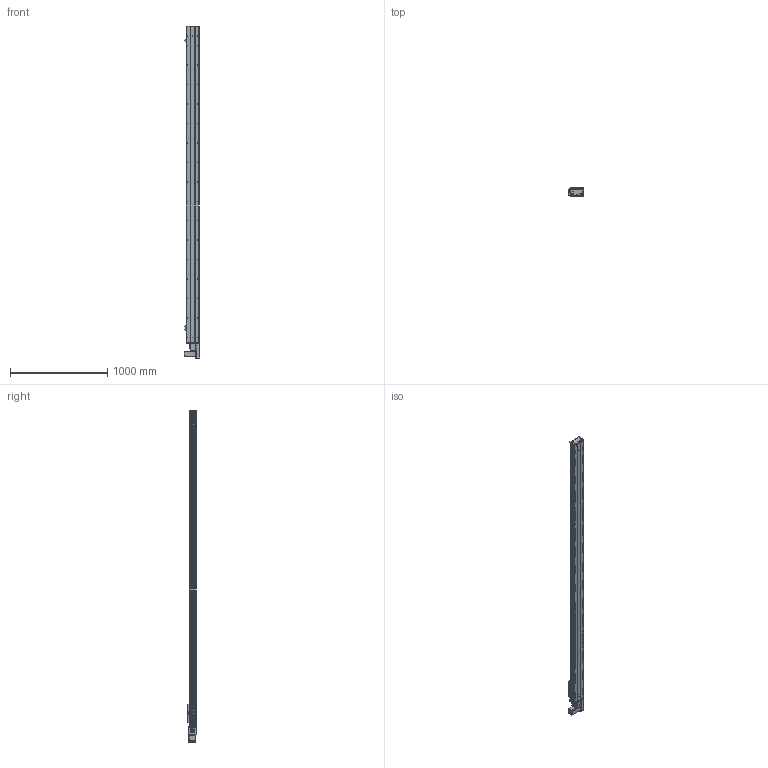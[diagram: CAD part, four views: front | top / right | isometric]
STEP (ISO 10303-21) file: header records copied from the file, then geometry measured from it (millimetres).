
FILE_DESCRIPTION (( 'STEP AP203' ), '1' );
FILE_NAME ('Y135CB-D90-S2950-BL-P400W.STEP', '2020-02-18T01:51:57', ( '微软用户' ), ( '微软中国' ), 'SwSTEP 2.0', 'SolidWorks 2017', '' );
FILE_SCHEMA (( 'CONFIG_CONTROL_DESIGN' ));
Length unit declared in the file: millimetre
Products named in the file (18): 0B-萇儂楊擘啣; Y135CB-D90-S2950-BL-P400W; san松下电机400不带刹车----; Y135CB-耜裔; 5CB --掛极耜裔啣-; 135CB---遴掛极.-; C-詩湍揤踡え-陔; 35CB---喘謫眊楊擘啣; 135CB--詩湍-CE; Y10B--々湍喘謫眊--666; Y100-135俋离換覜ん--; Y10B-耜蚾蟀諉啣----; Y135C-陔俋离換覜結え-; 0B-埴倛裔啣; Y俋欶BR----; 5C--俋欶; 0B-源倛裔啣; C-雄赽釱--
Assembly tree (21 placements, depth 2):
  Y135CB-D90-S2950-BL-P400W
    Y135CB-耜裔
    135CB---遴掛极.-
    35CB---喘謫眊楊擘啣
    Y10B--々湍喘謫眊--666
    Y10B-耜蚾蟀諉啣----
    Y俋欶BR----
    0B-埴倛裔啣
    0B-源倛裔啣
    0B-萇儂楊擘啣
    san松下电机400不带刹车----
    5CB --掛极耜裔啣-  x2
    C-詩湍揤踡え-陔  x2
    135CB--詩湍-CE
    Y100-135俋离換覜ん--  x3
    Y135C-陔俋离換覜結え-
    5C--俋欶
    C-雄赽釱--
Bounding box: 157.5 x 91 x 3414.5 mm (x, y, z)
Volume: 9451222.3 mm3; surface area: 3750269.8 mm2
Topology: 21 solids, 21 shells, 985 faces, 2707 edges, 1794 vertices
Faces by surface type: cylinder 511, plane 458, cone 16
Entity records: 31361 total; most frequent: CARTESIAN_POINT 5252, DIRECTION 5211, ORIENTED_EDGE 4890, EDGE_CURVE 2445, AXIS2_PLACEMENT_3D 1913, VERTEX_POINT 1622, VECTOR 1385, LINE 1385
